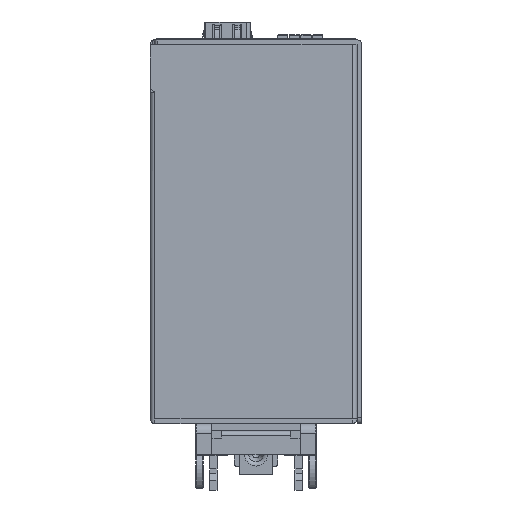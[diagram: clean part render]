
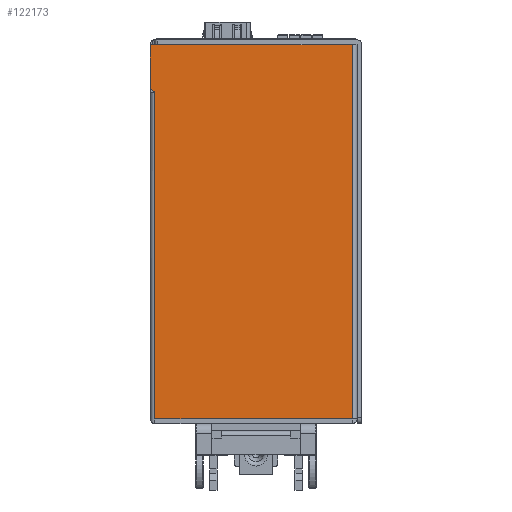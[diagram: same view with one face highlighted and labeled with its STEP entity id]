
A CAD part, front view. The second image highlights one B-rep face of the part: STEP entity #122173.
In plain terms, the highlighted planar face has unit normal (0, -1, 0).
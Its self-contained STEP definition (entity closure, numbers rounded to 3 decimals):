
#4683=PLANE('',#130820);
#11449=FACE_OUTER_BOUND('',#17777,.T.);
#17777=EDGE_LOOP('',(#107345,#107346,#107347,#107348,#107349,#107350,#107351,
#107352,#107353));
#21113=CIRCLE('',#130776,0.25);
#21116=CIRCLE('',#130785,1.);
#21119=CIRCLE('',#130790,1.);
#33098=LINE('',#207809,#46225);
#33691=LINE('',#210722,#46818);
#33736=LINE('',#210875,#46863);
#33737=LINE('',#210877,#46864);
#33738=LINE('',#210879,#46865);
#33739=LINE('',#210880,#46866);
#46225=VECTOR('',#159045,10.);
#46818=VECTOR('',#160060,10.);
#46863=VECTOR('',#160187,10.);
#46864=VECTOR('',#160190,10.);
#46865=VECTOR('',#160193,10.);
#46866=VECTOR('',#160194,10.);
#57355=VERTEX_POINT('',#207801);
#57358=VERTEX_POINT('',#207807);
#57913=VERTEX_POINT('',#210714);
#57915=VERTEX_POINT('',#210720);
#57925=VERTEX_POINT('',#210748);
#57927=VERTEX_POINT('',#210757);
#57957=VERTEX_POINT('',#210841);
#57961=VERTEX_POINT('',#210871);
#57962=VERTEX_POINT('',#210873);
#73701=EDGE_CURVE('',#57358,#57355,#33098,.T.);
#74514=EDGE_CURVE('',#57913,#57358,#21113,.T.);
#74517=EDGE_CURVE('',#57915,#57913,#33691,.T.);
#74530=EDGE_CURVE('',#57925,#57915,#21116,.T.);
#74535=EDGE_CURVE('',#57925,#57927,#21119,.F.);
#74587=EDGE_CURVE('',#57962,#57961,#33736,.T.);
#74588=EDGE_CURVE('',#57957,#57961,#33737,.T.);
#74589=EDGE_CURVE('',#57957,#57927,#33738,.T.);
#74590=EDGE_CURVE('',#57962,#57355,#33739,.T.);
#107345=ORIENTED_EDGE('',*,*,#74514,.F.);
#107346=ORIENTED_EDGE('',*,*,#74517,.F.);
#107347=ORIENTED_EDGE('',*,*,#74530,.F.);
#107348=ORIENTED_EDGE('',*,*,#74535,.T.);
#107349=ORIENTED_EDGE('',*,*,#74589,.F.);
#107350=ORIENTED_EDGE('',*,*,#74588,.T.);
#107351=ORIENTED_EDGE('',*,*,#74587,.F.);
#107352=ORIENTED_EDGE('',*,*,#74590,.T.);
#107353=ORIENTED_EDGE('',*,*,#73701,.F.);
#122173=ADVANCED_FACE('',(#11449),#4683,.T.);
#130776=AXIS2_PLACEMENT_3D('',#210716,#160054,#160055);
#130785=AXIS2_PLACEMENT_3D('',#210750,#160085,#160086);
#130790=AXIS2_PLACEMENT_3D('',#210759,#160097,#160098);
#130820=AXIS2_PLACEMENT_3D('',#210878,#160191,#160192);
#159045=DIRECTION('',(1.,0.,0.));
#160054=DIRECTION('center_axis',(0.,1.,0.));
#160055=DIRECTION('ref_axis',(-0.707,0.,
0.707));
#160060=DIRECTION('',(0.,0.,1.));
#160085=DIRECTION('center_axis',(0.,1.,0.));
#160086=DIRECTION('ref_axis',(1.,0.,0.));
#160097=DIRECTION('center_axis',(0.,-1.,0.));
#160098=DIRECTION('ref_axis',(0.866,0.,0.5));
#160187=DIRECTION('',(0.,0.,-1.));
#160190=DIRECTION('',(1.,0.,0.));
#160191=DIRECTION('center_axis',(0.,-1.,0.));
#160192=DIRECTION('ref_axis',(0.,0.,-1.));
#160193=DIRECTION('',(0.,0.,1.));
#160194=DIRECTION('',(-1.,0.,0.));
#207801=CARTESIAN_POINT('',(-57.205,-79.389,38.8));
#207807=CARTESIAN_POINT('',(-58.455,-79.389,38.8));
#207809=CARTESIAN_POINT('',(-57.705,-79.389,38.8));
#210714=CARTESIAN_POINT('',(-58.705,-79.389,38.55));
#210716=CARTESIAN_POINT('Origin',(-58.455,-79.389,38.55));
#210720=CARTESIAN_POINT('',(-58.705,-79.389,30.103));
#210722=CARTESIAN_POINT('',(-58.705,-79.389,29.3));
#210748=CARTESIAN_POINT('',(-58.138,-79.389,29.201));
#210750=CARTESIAN_POINT('Origin',(-57.705,-79.389,30.103));
#210757=CARTESIAN_POINT('',(-57.705,-79.389,28.8));
#210759=CARTESIAN_POINT('Origin',(-58.571,-79.389,28.3));
#210841=CARTESIAN_POINT('',(-57.705,-79.389,-38.99));
#210871=CARTESIAN_POINT('',(-16.705,-79.389,-38.99));
#210873=CARTESIAN_POINT('',(-16.705,-79.389,38.8));
#210875=CARTESIAN_POINT('',(-16.705,-79.389,14.353));
#210877=CARTESIAN_POINT('',(-57.705,-79.389,-38.99));
#210878=CARTESIAN_POINT('Origin',(-58.705,-79.389,28.8));
#210879=CARTESIAN_POINT('',(-57.705,-79.389,11.6));
#210880=CARTESIAN_POINT('',(-58.705,-79.389,38.8));
